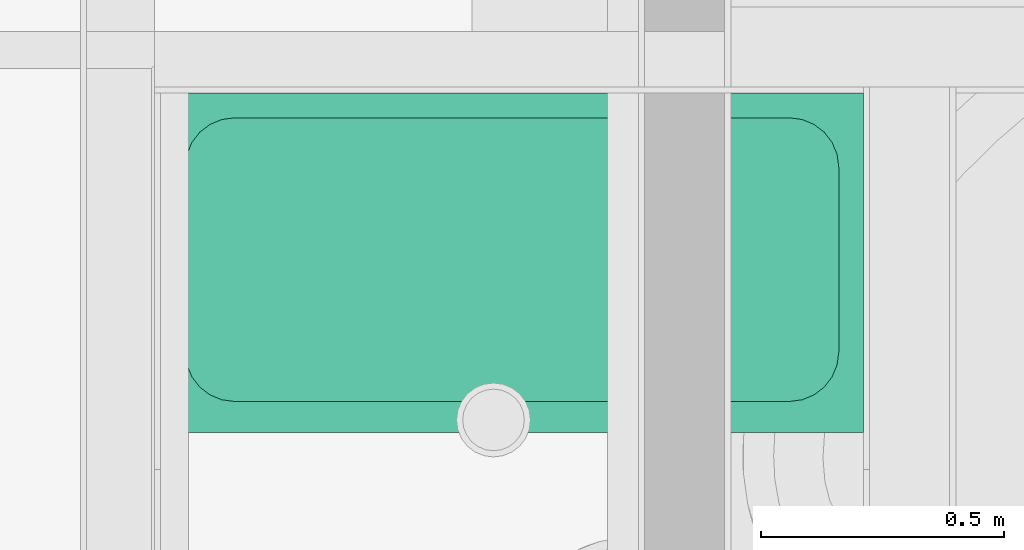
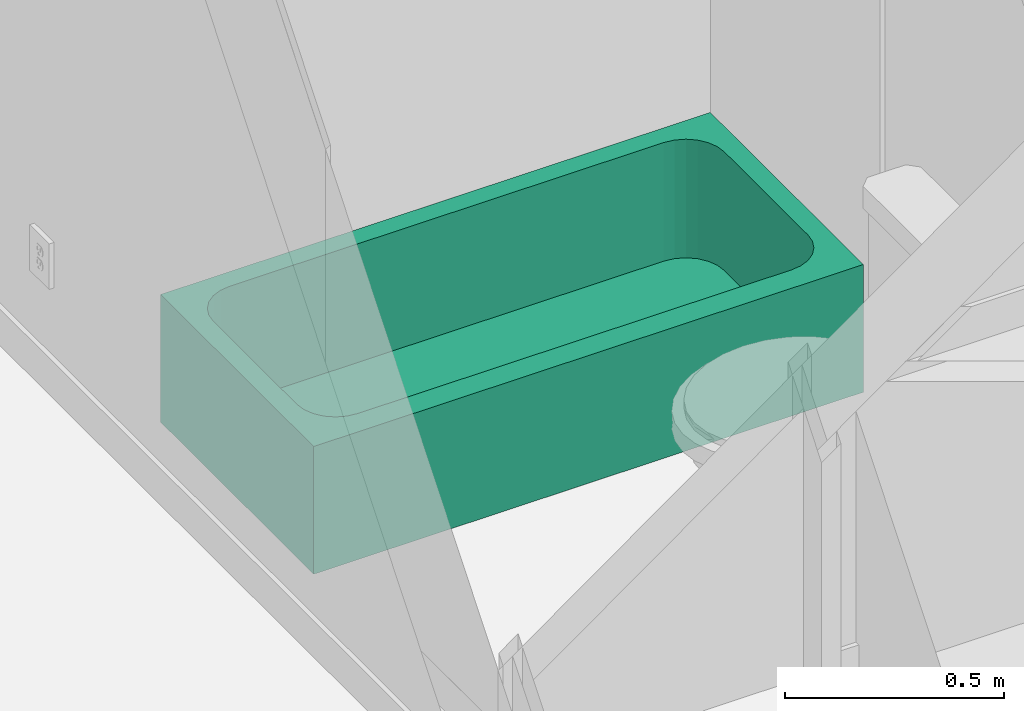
# One storey, part 45 of 60: 1 flow terminal.
"""IFC2X3 building model written with IfcOpenShell, lengths in feet."""

from ifc_helpers import new_model, entity, si_unit, converted_unit, direction, frame, origin, place, context, subcontext, project, spatial, faceted_brep, source, transform, mapped, material, type_object, type_shapes, element, save


model = new_model("IFC2X3")

# Units and contexts
model_context = context("Model", 3, precision=0.0001, world=origin(), true_north=direction((6.123031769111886e-17, 1.0)))
plan_context = context("Plan", 3, precision=0.0001, world=origin(), true_north=direction((6.123031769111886e-17, 1.0)))
body_context = subcontext(model_context, "Body", "Model", "MODEL_VIEW")
ifc_project = project(units=[converted_unit("LENGTHUNIT", "FOOT", entity("IfcLengthMeasure", 0.3048), si_unit("LENGTHUNIT", "METRE"), dimensions=[1, 0, 0, 0, 0, 0, 0]), converted_unit("AREAUNIT", "SQUARE FOOT", entity("IfcAreaMeasure", 0.09290304), si_unit("AREAUNIT", "SQUARE_METRE"), dimensions=[2, 0, 0, 0, 0, 0, 0]), converted_unit("PLANEANGLEUNIT", "DEGREE", entity("IfcPlaneAngleMeasure", 0.017453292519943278), si_unit("PLANEANGLEUNIT", "RADIAN"), dimensions=[0, 0, 0, 0, 0, 0, 0])], contexts=[model_context, plan_context])

# Site, building, storey
site_placement = place(None, origin())
site = spatial("IfcSite", under=ifc_project, at=site_placement, Name="Default", CompositionType="ELEMENT")
building_placement = place(site_placement, origin())
building = spatial("IfcBuilding", under=site, at=building_placement, CompositionType="ELEMENT")
storey_placement = place(building_placement, origin())
storey = spatial("IfcBuildingStorey", under=building, at=storey_placement, Name="First floor", CompositionType="ELEMENT", Elevation=0.0)

# Flow terminal
ifc_material = material(Name="Default New Material")
distribution_element_type = type_object("IfcDistributionElementType", Name="C_Bathtub:C_Bathtub 2", material=ifc_material)
shared_shape = source(origin(), body_context, "Body", "Brep", [
    faceted_brep([(2.2916666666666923, 4.749999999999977, 1.166666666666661), (2.080341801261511, 4.416666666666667, 1.166666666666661), (2.1136419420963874, 4.336273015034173, 1.166666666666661), (2.027368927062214, 4.485702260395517, 1.166666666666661), (2.125000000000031, 4.249999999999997, 1.166666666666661), (2.125000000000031, 0.4999999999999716, 1.166666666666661), (1.9583333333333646, 4.538675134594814, 1.166666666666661), (1.8779396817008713, 4.57197527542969, 1.166666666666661), (1.7916666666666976, 4.583333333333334, 1.166666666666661), (0.5416666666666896, 4.583333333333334, 1.166666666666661), (2.2916666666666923, 0.0, 1.166666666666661), (0.0, 4.749999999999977, 1.166666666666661), (0.45539365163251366, 4.571975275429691, 1.166666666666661), (0.37500000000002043, 4.538675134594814, 1.166666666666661), (0.305964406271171, 4.485702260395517, 1.166666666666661), (0.25299153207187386, 4.416666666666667, 1.166666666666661), (0.21969139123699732, 4.336273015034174, 1.166666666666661), (0.20833333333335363, 4.25, 1.166666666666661), (0.20833333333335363, 0.49999999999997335, 1.166666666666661), (0.0, 0.0, 1.166666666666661), (0.21969139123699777, 0.4137269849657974, 1.166666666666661), (0.2529915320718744, 0.3333333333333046, 1.166666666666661), (0.30596440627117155, 0.2642977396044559, 1.166666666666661), (0.37500000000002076, 0.2113248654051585, 1.166666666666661), (0.4553936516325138, 0.17802472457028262, 1.166666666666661), (0.5416666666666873, 0.16666666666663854, 1.166666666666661), (2.113641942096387, 0.4137269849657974, 1.166666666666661), (2.0803418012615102, 0.3333333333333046, 1.166666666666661), (2.0273689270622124, 0.264297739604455, 1.166666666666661), (1.9583333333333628, 0.2113248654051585, 1.166666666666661), (1.8779396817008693, 0.17802472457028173, 1.166666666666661), (1.7916666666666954, 0.16666666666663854, 1.166666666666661), (0.0, 0.0, 0.0), (0.0, 4.749999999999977, 0.0), (2.2916666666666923, 4.749999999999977, 0.0), (2.2916666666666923, 0.0, 0.0), (0.2529915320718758, 4.4166666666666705, 0.0833333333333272), (0.21969139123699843, 4.336273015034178, 0.0833333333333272), (0.2083333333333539, 4.25, 0.0833333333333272), (0.20833333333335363, 0.49999999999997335, 0.0833333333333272), (0.2196913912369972, 0.41372698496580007, 0.0833333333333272), (0.2529915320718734, 0.3333333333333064, 0.0833333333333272), (0.30596440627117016, 0.2642977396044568, 0.0833333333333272), (0.37500000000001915, 0.21132486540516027, 0.0833333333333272), (0.455393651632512, 0.17802472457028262, 0.0833333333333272), (0.5416666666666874, 0.16666666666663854, 0.0833333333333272), (1.7916666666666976, 0.16666666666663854, 0.0833333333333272), (1.877939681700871, 0.17802472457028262, 0.0833333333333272), (1.9583333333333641, 0.2113248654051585, 0.0833333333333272), (2.0273689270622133, 0.2642977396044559, 0.0833333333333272), (2.0803418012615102, 0.3333333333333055, 0.0833333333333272), (2.113641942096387, 0.4137269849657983, 0.0833333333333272), (2.125000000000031, 0.4999999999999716, 0.0833333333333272), (2.125000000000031, 4.249999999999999, 0.0833333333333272), (2.1136419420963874, 4.336273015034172, 0.0833333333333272), (2.0803418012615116, 4.416666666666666, 0.0833333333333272), (2.027368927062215, 4.485702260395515, 0.0833333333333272), (1.9583333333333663, 4.538675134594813, 0.0833333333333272), (1.8779396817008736, 4.57197527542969, 0.0833333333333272), (1.791666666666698, 4.583333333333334, 0.0833333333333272), (0.5416666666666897, 4.583333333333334, 0.0833333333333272), (0.45539365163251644, 4.571975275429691, 0.0833333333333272), (0.3750000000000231, 4.538675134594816, 0.0833333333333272), (0.3059644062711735, 4.485702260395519, 0.0833333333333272)], [[[0, 1, 2]], [[1, 0, 3]], [[2, 4, 0]], [[0, 4, 5]], [[6, 3, 0]], [[7, 6, 0]], [[8, 7, 0]], [[0, 9, 8]], [[5, 10, 0]], [[9, 0, 11]], [[12, 9, 11]], [[12, 11, 13]], [[14, 13, 11]], [[11, 15, 14]], [[15, 11, 16]], [[17, 16, 11]], [[11, 18, 17]], [[18, 11, 19]], [[20, 18, 19]], [[19, 21, 20]], [[21, 19, 22]], [[23, 22, 19]], [[23, 19, 24]], [[25, 24, 19]], [[25, 19, 10]], [[5, 26, 10]], [[27, 10, 26]], [[10, 27, 28]], [[28, 29, 10]], [[29, 30, 10]], [[30, 31, 10]], [[10, 31, 25]], [[32, 33, 34, 35]], [[11, 0, 34, 33]], [[19, 11, 33, 32]], [[10, 19, 32, 35]], [[0, 10, 35, 34]], [[36, 37, 38, 39, 40, 41, 42, 43, 44, 45, 46, 47, 48, 49, 50, 51, 52, 53, 54, 55, 56, 57, 58, 59, 60, 61, 62, 63]], [[59, 8, 9, 60]], [[38, 17, 18, 39]], [[45, 25, 31, 46]], [[52, 5, 4, 53]], [[62, 61, 12, 13]], [[63, 62, 13, 14]], [[9, 12, 61, 60]], [[37, 36, 15, 16]], [[38, 37, 16, 17]], [[15, 36, 63, 14]], [[41, 40, 20, 21]], [[42, 41, 21, 22]], [[18, 20, 40, 39]], [[44, 43, 23, 24]], [[45, 44, 24, 25]], [[23, 43, 42, 22]], [[48, 47, 30, 29]], [[49, 48, 29, 28]], [[31, 30, 47, 46]], [[51, 50, 27, 26]], [[52, 51, 26, 5]], [[27, 50, 49, 28]], [[55, 54, 2, 1]], [[56, 55, 1, 3]], [[4, 2, 54, 53]], [[58, 57, 6, 7]], [[59, 58, 7, 8]], [[6, 57, 56, 3]]]),
])
type_shapes(distribution_element_type, [shared_shape])
flow_terminal_placement = place(storey_placement, frame((-4.833333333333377, 43.79166666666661, 0.0), z_axis=(0.0, 0.0, 1.0), x_axis=(0.0, 1.0, 0.0)))
element("IfcFlowTerminal", 1, at=flow_terminal_placement, inside=storey, type_object=distribution_element_type, material=ifc_material, Name="C_Bathtub:C_Bathtub 2", ObjectType="C_Bathtub:C_Bathtub 2", context=body_context, shape_type="MappedRepresentation", body=[
    mapped(shared_shape, transform((0.0, 0.0, 0.0), scale=1.0)),
])

save(model, "model.ifc")
